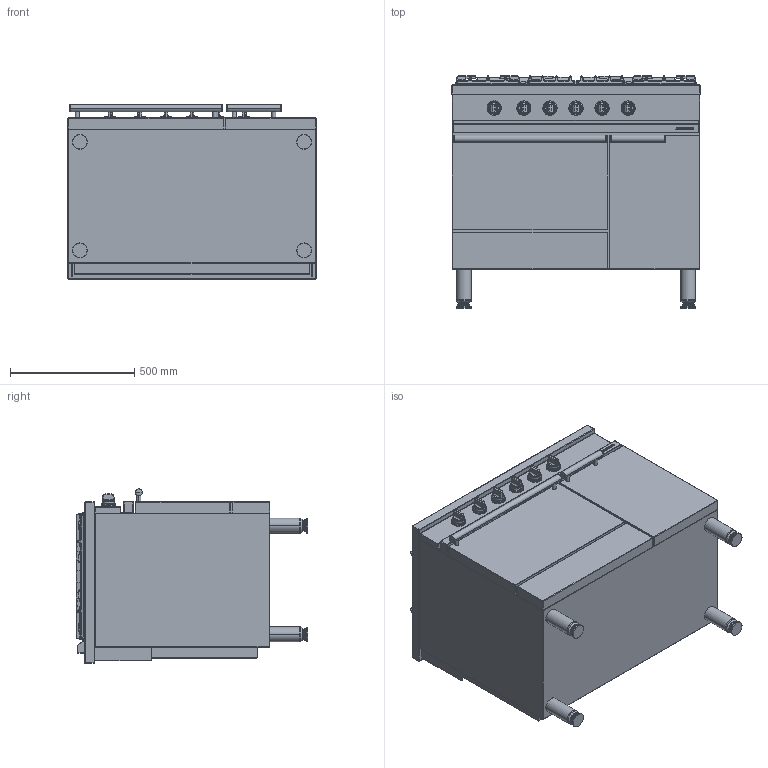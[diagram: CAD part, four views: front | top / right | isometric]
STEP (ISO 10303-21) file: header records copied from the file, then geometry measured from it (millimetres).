
FILE_DESCRIPTION((''),'2;1');
FILE_NAME('CG1051GA_EXPORT_STEP_ASM','2017-11-22T',('r.avril'),(''),'PRO/ENGINEER BY PARAMETRIC TECHNOLOGY CORPORATION, 2014200','PRO/ENGINEER BY PARAMETRIC TECHNOLOGY CORPORATION, 2014200','');
FILE_SCHEMA(('AP203_CONFIGURATION_CONTROLLED_3D_DESIGN_OF_MECHANICAL_PARTS_AND_ASSEMBLIES_MIM_LF { 1 0 10303 403 2 1 2 }'));
Products named in the file (14): FOURNEAUX_AMB_1051A_EXPORT_STEP; TABLE_1000_CLASSIQUE; 3KW; 5KW; 1_5KW; 4KW; 6537025; 65149005; 90000488_ASM; 6537024; 90000487_ASM; TABLE_1000_CLASSIQUE_ASM; MANETTE_AMB_EXPORT_STEP; CG1051GA_EXPORT_STEP_ASM
Assembly tree (28 placements, depth 4):
  CG1051GA_EXPORT_STEP_ASM
    FOURNEAUX_AMB_1051A_EXPORT_STEP
    TABLE_1000_CLASSIQUE_ASM
      TABLE_1000_CLASSIQUE
      3KW  x2
      5KW
      1_5KW
      4KW
      90000488_ASM  x2
        6537025
        65149005
      90000487_ASM  x2
        6537024
        65149005
    MANETTE_AMB_EXPORT_STEP  x6
Bounding box: 1000 x 935 x 703 mm (x, y, z)
Volume: 456422542.9 mm3; surface area: 7917830.2 mm2
Topology: 52 solids, 70 shells, 3869 faces, 10575 edges, 7233 vertices
Faces by surface type: bspline 1160, cylinder 1087, plane 951, cone 341, torus 152, sphere 138, extrusion 40
Entity records: 102188 total; most frequent: CARTESIAN_POINT 37379, ORIENTED_EDGE 9436, DIRECTION 8393, EDGE_CURVE 4942, PRESENTATION_STYLE_ASSIGNMENT 4316, STYLED_ITEM 4316, CURVE_STYLE 4097, VERTEX_POINT 3061
